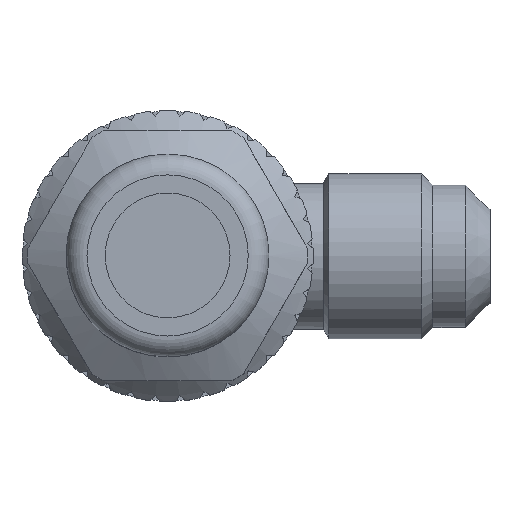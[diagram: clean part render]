
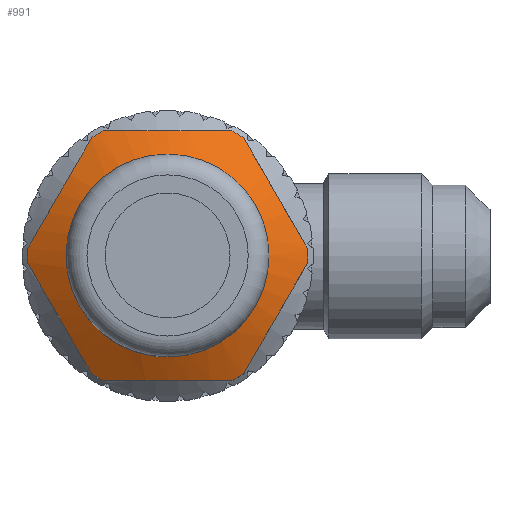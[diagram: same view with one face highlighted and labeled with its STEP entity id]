
A CAD part, top view. The second image highlights one B-rep face of the part: STEP entity #991.
In plain terms, the highlighted conical face has half-angle 60 degrees and reference radius 14.4 mm.
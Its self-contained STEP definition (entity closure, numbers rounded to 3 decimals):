
#379=CONICAL_SURFACE('',#8086,14.4,60.);
#622=B_SPLINE_CURVE_WITH_KNOTS('',3,(#14227,#14228,#14229,#14230,#14231,
#14232),.UNSPECIFIED.,.F.,.F.,(4,2,4),(0.,0.5,1.),.UNSPECIFIED.);
#623=B_SPLINE_CURVE_WITH_KNOTS('',3,(#14238,#14239,#14240,#14241,#14242,
#14243),.UNSPECIFIED.,.F.,.F.,(4,2,4),(0.,0.5,1.),.UNSPECIFIED.);
#624=B_SPLINE_CURVE_WITH_KNOTS('',3,(#14249,#14250,#14251,#14252,#14253,
#14254),.UNSPECIFIED.,.F.,.F.,(4,2,4),(0.,0.5,1.),.UNSPECIFIED.);
#625=B_SPLINE_CURVE_WITH_KNOTS('',3,(#14260,#14261,#14262,#14263,#14264,
#14265),.UNSPECIFIED.,.F.,.F.,(4,2,4),(0.,0.5,1.),.UNSPECIFIED.);
#626=B_SPLINE_CURVE_WITH_KNOTS('',3,(#14271,#14272,#14273,#14274,#14275,
#14276),.UNSPECIFIED.,.F.,.F.,(4,2,4),(0.,0.5,1.),.UNSPECIFIED.);
#627=B_SPLINE_CURVE_WITH_KNOTS('',3,(#14282,#14283,#14284,#14285,#14286,
#14287),.UNSPECIFIED.,.F.,.F.,(4,2,4),(0.,0.5,1.),.UNSPECIFIED.);
#991=ADVANCED_FACE('',(#1469,#2677),#379,.T.);
#1469=FACE_BOUND('',#3180,.T.);
#2677=FACE_OUTER_BOUND('',#3181,.T.);
#3180=EDGE_LOOP('',(#4757));
#3181=EDGE_LOOP('',(#4758,#4759,#4760,#4761,#4762,#4763,#4764,#4765,#4766,
#4767,#4768,#4769));
#4757=ORIENTED_EDGE('',*,*,#7055,.F.);
#4758=ORIENTED_EDGE('',*,*,#7039,.T.);
#4759=ORIENTED_EDGE('',*,*,#7056,.T.);
#4760=ORIENTED_EDGE('',*,*,#7042,.T.);
#4761=ORIENTED_EDGE('',*,*,#7057,.T.);
#4762=ORIENTED_EDGE('',*,*,#7045,.T.);
#4763=ORIENTED_EDGE('',*,*,#7058,.T.);
#4764=ORIENTED_EDGE('',*,*,#7048,.T.);
#4765=ORIENTED_EDGE('',*,*,#7059,.T.);
#4766=ORIENTED_EDGE('',*,*,#7051,.T.);
#4767=ORIENTED_EDGE('',*,*,#7060,.T.);
#4768=ORIENTED_EDGE('',*,*,#7054,.T.);
#4769=ORIENTED_EDGE('',*,*,#7061,.T.);
#6084=VERTEX_POINT('',#14224);
#6085=VERTEX_POINT('',#14226);
#6086=VERTEX_POINT('',#14235);
#6087=VERTEX_POINT('',#14237);
#6088=VERTEX_POINT('',#14246);
#6089=VERTEX_POINT('',#14248);
#6090=VERTEX_POINT('',#14257);
#6091=VERTEX_POINT('',#14259);
#6092=VERTEX_POINT('',#14268);
#6093=VERTEX_POINT('',#14270);
#6094=VERTEX_POINT('',#14279);
#6095=VERTEX_POINT('',#14281);
#6096=VERTEX_POINT('',#14290);
#7039=EDGE_CURVE('',#6084,#6085,#622,.T.);
#7042=EDGE_CURVE('',#6086,#6087,#623,.T.);
#7045=EDGE_CURVE('',#6088,#6089,#624,.T.);
#7048=EDGE_CURVE('',#6090,#6091,#625,.T.);
#7051=EDGE_CURVE('',#6092,#6093,#626,.T.);
#7054=EDGE_CURVE('',#6094,#6095,#627,.T.);
#7055=EDGE_CURVE('',#6096,#6096,#7522,.T.);
#7056=EDGE_CURVE('',#6085,#6086,#7523,.T.);
#7057=EDGE_CURVE('',#6087,#6088,#7524,.T.);
#7058=EDGE_CURVE('',#6089,#6090,#7525,.T.);
#7059=EDGE_CURVE('',#6091,#6092,#7526,.T.);
#7060=EDGE_CURVE('',#6093,#6094,#7527,.T.);
#7061=EDGE_CURVE('',#6095,#6084,#7528,.T.);
#7522=CIRCLE('',#8079,9.75);
#7523=CIRCLE('',#8080,13.5);
#7524=CIRCLE('',#8081,13.5);
#7525=CIRCLE('',#8082,13.5);
#7526=CIRCLE('',#8083,13.5);
#7527=CIRCLE('',#8084,13.5);
#7528=CIRCLE('',#8085,13.5);
#8079=AXIS2_PLACEMENT_3D('',#14289,#9660,#9661);
#8080=AXIS2_PLACEMENT_3D('',#14291,#9662,#9663);
#8081=AXIS2_PLACEMENT_3D('',#14292,#9664,#9665);
#8082=AXIS2_PLACEMENT_3D('',#14293,#9666,#9667);
#8083=AXIS2_PLACEMENT_3D('',#14294,#9668,#9669);
#8084=AXIS2_PLACEMENT_3D('',#14295,#9670,#9671);
#8085=AXIS2_PLACEMENT_3D('',#14296,#9672,#9673);
#8086=AXIS2_PLACEMENT_3D('',#14297,#9674,#9675);
#9660=DIRECTION('',(0.,0.,1.));
#9661=DIRECTION('',(1.,0.,0.));
#9662=DIRECTION('',(0.,0.,1.));
#9663=DIRECTION('',(-1.,0.,0.));
#9664=DIRECTION('',(0.,0.,1.));
#9665=DIRECTION('',(-1.,0.,0.));
#9666=DIRECTION('',(0.,0.,1.));
#9667=DIRECTION('',(-1.,0.,0.));
#9668=DIRECTION('',(0.,0.,1.));
#9669=DIRECTION('',(-1.,0.,0.));
#9670=DIRECTION('',(0.,0.,1.));
#9671=DIRECTION('',(-1.,0.,0.));
#9672=DIRECTION('',(0.,0.,1.));
#9673=DIRECTION('',(-1.,0.,0.));
#9674=DIRECTION('',(0.,0.,-1.));
#9675=DIRECTION('',(-1.,0.,0.));
#14224=CARTESIAN_POINT('',(-13.485,-0.644,42.835));
#14226=CARTESIAN_POINT('',(-7.3,-11.356,42.835));
#14227=CARTESIAN_POINT('',(-13.485,-0.644,42.835));
#14228=CARTESIAN_POINT('',(-12.474,-2.395,43.37));
#14229=CARTESIAN_POINT('',(-11.448,-4.172,43.7));
#14230=CARTESIAN_POINT('',(-9.349,-7.806,43.702));
#14231=CARTESIAN_POINT('',(-8.313,-9.602,43.371));
#14232=CARTESIAN_POINT('',(-7.3,-11.356,42.835));
#14235=CARTESIAN_POINT('',(-6.185,-12.,42.835));
#14237=CARTESIAN_POINT('',(6.185,-12.,42.835));
#14238=CARTESIAN_POINT('',(-6.185,-12.,42.835));
#14239=CARTESIAN_POINT('',(-4.162,-12.,43.37));
#14240=CARTESIAN_POINT('',(-2.085,-12.,43.701));
#14241=CARTESIAN_POINT('',(2.083,-12.,43.701));
#14242=CARTESIAN_POINT('',(4.179,-12.,43.365));
#14243=CARTESIAN_POINT('',(6.185,-12.,42.835));
#14246=CARTESIAN_POINT('',(7.3,-11.356,42.835));
#14248=CARTESIAN_POINT('',(13.485,-0.644,42.835));
#14249=CARTESIAN_POINT('',(7.3,-11.356,42.835));
#14250=CARTESIAN_POINT('',(8.311,-9.605,43.37));
#14251=CARTESIAN_POINT('',(9.337,-7.828,43.7));
#14252=CARTESIAN_POINT('',(11.435,-4.194,43.702));
#14253=CARTESIAN_POINT('',(12.472,-2.398,43.371));
#14254=CARTESIAN_POINT('',(13.485,-0.644,42.835));
#14257=CARTESIAN_POINT('',(13.485,0.644,42.835));
#14259=CARTESIAN_POINT('',(7.3,11.356,42.835));
#14260=CARTESIAN_POINT('',(13.485,0.644,42.835));
#14261=CARTESIAN_POINT('',(12.474,2.395,43.37));
#14262=CARTESIAN_POINT('',(11.448,4.172,43.7));
#14263=CARTESIAN_POINT('',(9.349,7.806,43.702));
#14264=CARTESIAN_POINT('',(8.313,9.602,43.371));
#14265=CARTESIAN_POINT('',(7.3,11.356,42.835));
#14268=CARTESIAN_POINT('',(6.185,12.,42.835));
#14270=CARTESIAN_POINT('',(-6.185,12.,42.835));
#14271=CARTESIAN_POINT('',(6.185,12.,42.835));
#14272=CARTESIAN_POINT('',(4.179,12.,43.365));
#14273=CARTESIAN_POINT('',(2.083,12.,43.701));
#14274=CARTESIAN_POINT('',(-2.085,12.,43.701));
#14275=CARTESIAN_POINT('',(-4.162,12.,43.37));
#14276=CARTESIAN_POINT('',(-6.185,12.,42.835));
#14279=CARTESIAN_POINT('',(-7.3,11.356,42.835));
#14281=CARTESIAN_POINT('',(-13.485,0.644,42.835));
#14282=CARTESIAN_POINT('',(-7.3,11.356,42.835));
#14283=CARTESIAN_POINT('',(-8.311,9.605,43.37));
#14284=CARTESIAN_POINT('',(-9.337,7.828,43.7));
#14285=CARTESIAN_POINT('',(-11.435,4.194,43.702));
#14286=CARTESIAN_POINT('',(-12.472,2.398,43.371));
#14287=CARTESIAN_POINT('',(-13.485,0.644,42.835));
#14289=CARTESIAN_POINT('',(0.,0.,45.));
#14290=CARTESIAN_POINT('',(9.75,0.,45.));
#14291=CARTESIAN_POINT('',(0.,0.,42.835));
#14292=CARTESIAN_POINT('',(0.,0.,42.835));
#14293=CARTESIAN_POINT('',(0.,0.,42.835));
#14294=CARTESIAN_POINT('',(0.,0.,42.835));
#14295=CARTESIAN_POINT('',(0.,0.,42.835));
#14296=CARTESIAN_POINT('',(0.,0.,42.835));
#14297=CARTESIAN_POINT('',(0.,0.,42.315));
